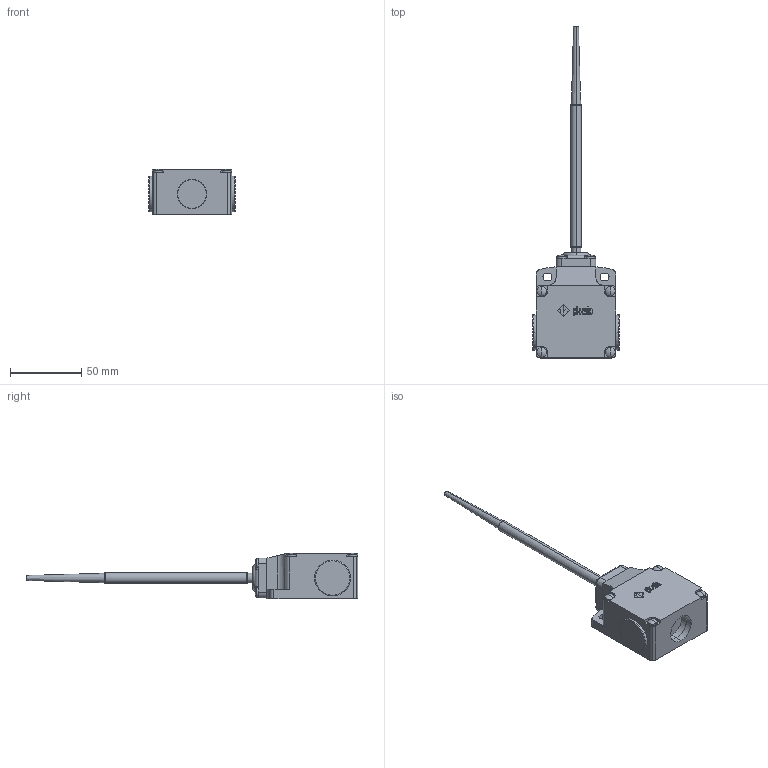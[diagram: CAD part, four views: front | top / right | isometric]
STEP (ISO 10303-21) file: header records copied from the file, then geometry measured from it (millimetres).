
FILE_DESCRIPTION (( 'STEP AP214' ), '1' );
FILE_NAME ('ZF_STEP_FL_x25_A10.step', '2014-04-10T09:04:53', ( 'utente' ), ( 'Microsoft' ), 'SwSTEP 2.0', 'SolidWorks 2013', '' );
FILE_SCHEMA (( 'AUTOMOTIVE_DESIGN' ));
Length unit declared in the file: millimetre
Products named in the file (5): Pizzato_Custodia_FL; ZF_STEP_FL_x25_A10; ZF_STEP_VF_T25_A10; Pizzato_T25_V40; Pizzato_Tappo_Protezione_PG13_M20_PG13
Assembly tree (5 placements, depth 3):
  ZF_STEP_FL_x25_A10
    Pizzato_Custodia_FL
    Pizzato_Tappo_Protezione_PG13_M20_PG13  x2
    ZF_STEP_VF_T25_A10
      Pizzato_T25_V40
Bounding box: 60.8 x 232.5 x 31.8 mm (x, y, z)
Volume: 111726.1 mm3; surface area: 26626.3 mm2
Topology: 4 solids, 4 shells, 459 faces, 1176 edges, 776 vertices
Faces by surface type: plane 258, cylinder 98, bspline 73, sphere 16, torus 12, cone 2
Entity records: 17220 total; most frequent: CARTESIAN_POINT 6336, ORIENTED_EDGE 2320, DIRECTION 2018, EDGE_CURVE 1160, LINE 778, VECTOR 778, VERTEX_POINT 766, AXIS2_PLACEMENT_3D 620
